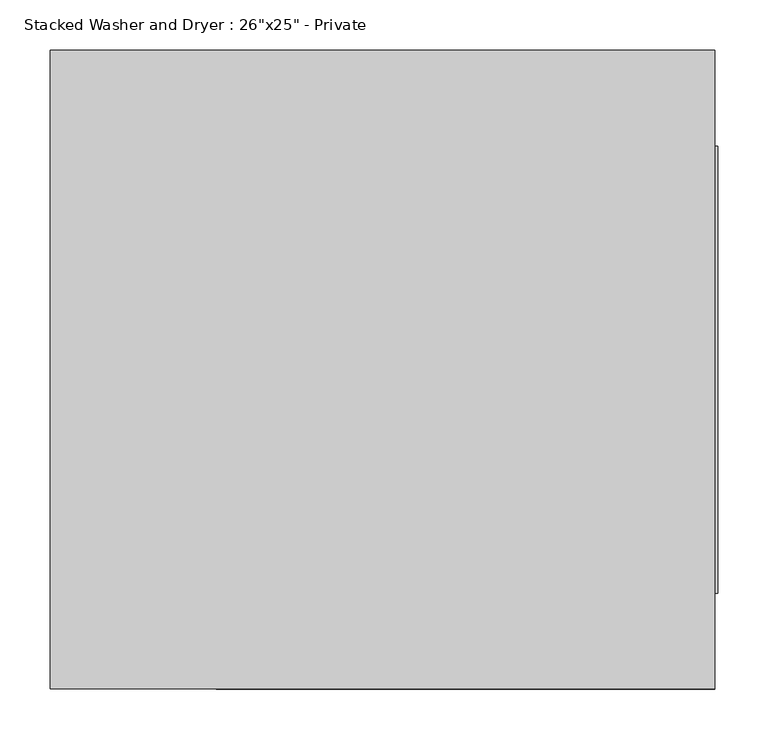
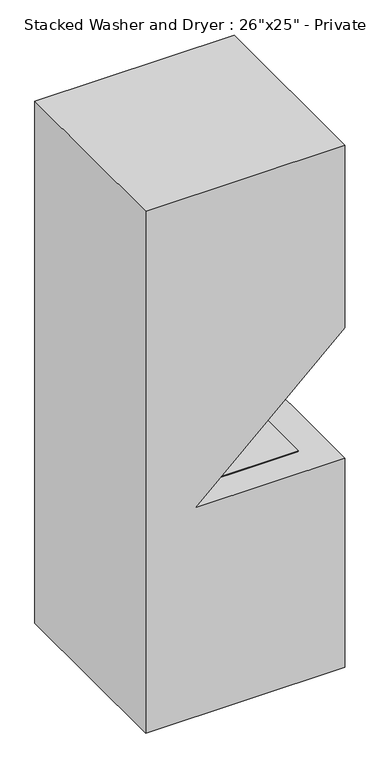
"""IFC4 building model written with IfcOpenShell, lengths in millimetres: flow terminal geometry."""

from ifc_helpers import new_model, si_unit, frame, origin, place, context, project, spatial, polyline, outline, extrude, source, transform, mapped, element, save


def flow_terminal_9945266a(model_context):
    return source(origin(), model_context, "Body", "SweptSolid", [
        extrude(outline(polyline([(561.18125, 222.25), (561.18125, -222.25), (230.98125, -222.25), (230.98125, 222.25), (561.18125, 222.25)])), frame((0.0, 0.0, 731.8375), z_axis=(0.0, 0.0, 1.0), x_axis=(1.0, 0.0, 0.0)), (0.0, 0.0, 1.0), 3.175),
        extrude(outline(polyline([(663.575, -222.25), (660.4, -222.25), (660.4, 222.25), (663.575, 222.25), (663.575, -222.25)])), frame((0.0, 0.0, 1316.83125), z_axis=(0.0, 0.0, 1.0), x_axis=(1.0, 0.0, 0.0)), (0.0, 0.0, 1.0), 365.91875),
        extrude(outline(polyline([(0.0, 0.0), (0.0, 660.4), (731.8375, 660.4), (731.8375, 165.1), (1189.0375, 660.4), (1828.8, 660.4), (1828.8, 0.0), (0.0, 0.0)])), frame((0.0, -317.5, 0.0), z_axis=(0.0, 1.0, 0.0), x_axis=(0.0, 0.0, 1.0)), (0.0, 0.0, 1.0), 635.0),
    ])


if __name__ == "__main__":
    model = new_model("IFC4")
    model_context = context("Model", 3, world=origin())
    ifc_project = project(units=[si_unit("LENGTHUNIT", "METRE", prefix="MILLI")], contexts=[model_context])
    site = spatial("IfcSite", under=ifc_project)
    building = spatial("IfcBuilding", under=site)
    placement = place(None, origin())
    flow_terminal_shape = flow_terminal_9945266a(model_context)
    element("IfcFlowTerminal", 1, ObjectType="Stacked Washer and Dryer : 26\"x25\" - Private", at=placement, inside=building, context=model_context, shape_type="MappedRepresentation", body=[
        mapped(flow_terminal_shape, transform((0.0, 0.0, 0.0), x_axis=(1.0, 0.0, 0.0), y_axis=(0.0, 1.0, 0.0), z_axis=(0.0, 0.0, 1.0))),
    ])
    save(model, "model.ifc")
